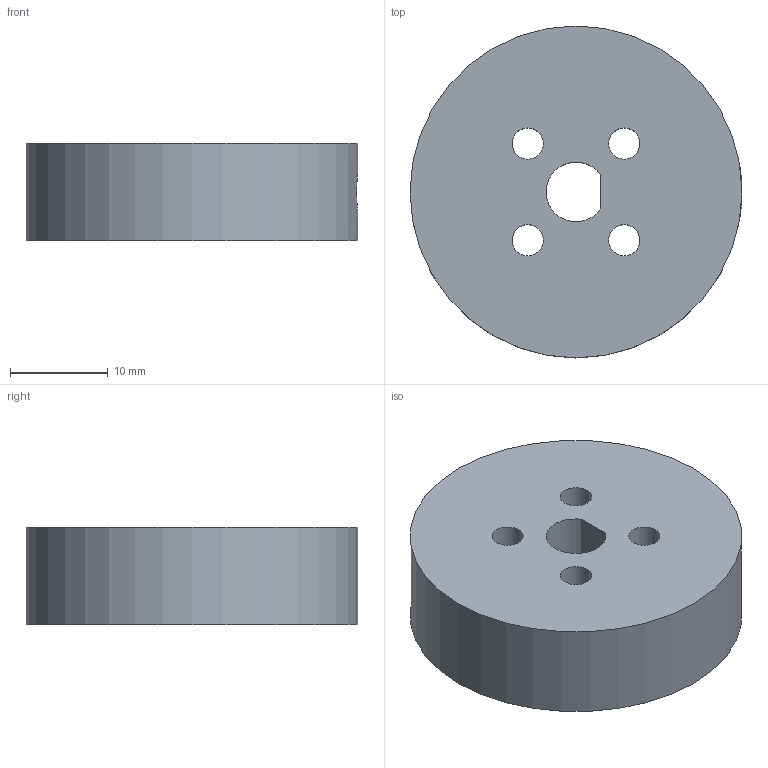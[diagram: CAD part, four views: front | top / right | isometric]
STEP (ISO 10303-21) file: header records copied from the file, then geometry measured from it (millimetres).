
FILE_DESCRIPTION(('Open CASCADE Model'),'2;1');
FILE_NAME('Open CASCADE Shape Model','2026-09-10T23:36:49',('Author'),( 'Open CASCADE'),'Open CASCADE STEP processor 7.9','Open CASCADE 7.9' ,'Unknown');
FILE_SCHEMA(('AUTOMOTIVE_DESIGN { 1 0 10303 214 1 1 1 1 }'));
Length unit declared in the file: millimetre
Products named in the file (1): Open CASCADE STEP translator 7.9 8
Bounding box: 34 x 34 x 10 mm (x, y, z)
Volume: 8379.9 mm3; surface area: 3447 mm2
Topology: 1 solids, 1 shells, 11 faces, 27 edges, 18 vertices
Faces by surface type: cylinder 7, plane 4
Full cylindrical faces by diameter (mm): 3.2 x4, 4.2 x1, 34 x1
Entity records: 894 total; most frequent: CARTESIAN_POINT 346, DIRECTION 95, ORIENTED_EDGE 54, PCURVE 54, DEFINITIONAL_REPRESENTATION 54, LINE 42, VECTOR 42, EDGE_CURVE 27
